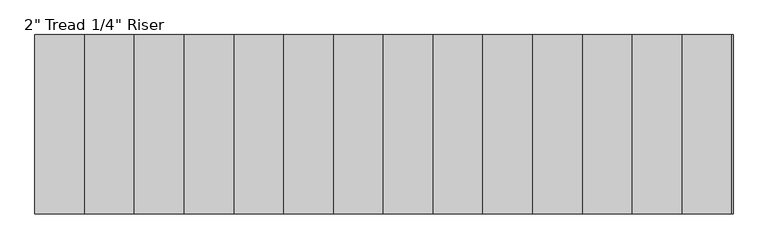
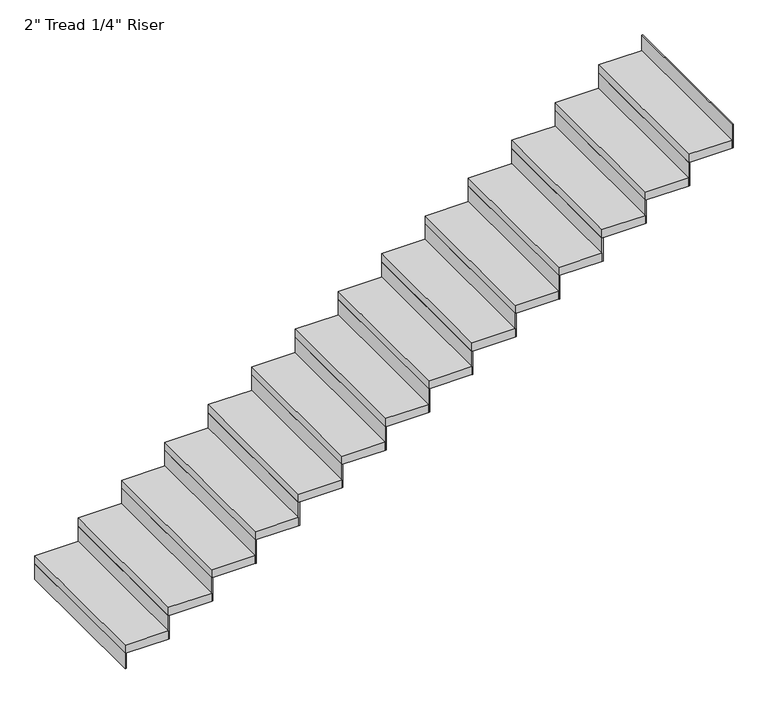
"""IFC4 building model written with IfcOpenShell, lengths in millimetres: stair flight geometry."""

from ifc_helpers import new_model, si_unit, frame, origin, origin_with_axes, place, context, project, spatial, polyline, outline, extrude, source, transform, mapped, element, save


def stair_flight_0a09475e(model_context):
    return source(origin(), model_context, "Body", "SweptSolid", [
        extrude(outline(polyline([(109152.4382982, -2429.8986114), (109146.0882982, -2429.8986114), (109146.0882982, -1515.4986114), (109152.4382982, -1515.4986114), (109152.4382982, -2429.8986114)])), origin_with_axes(), (0.0, 0.0, 1.0), 94.3428571),
        extrude(outline(polyline([(109400.0882982, -1515.4986114), (109400.0882982, -2429.8986114), (109146.0882982, -2429.8986114), (109146.0882982, -1515.4986114), (109400.0882982, -1515.4986114)])), frame((0.0, 0.0, 94.3428571), z_axis=(0.0, 0.0, 1.0), x_axis=(1.0, 0.0, 0.0)), (0.0, 0.0, 1.0), 50.8),
        extrude(outline(polyline([(109406.4382982, -2429.8986114), (109400.0882982, -2429.8986114), (109400.0882982, -1515.4986114), (109406.4382982, -1515.4986114), (109406.4382982, -2429.8986114)])), frame((0.0, 0.0, 94.3428571), z_axis=(0.0, 0.0, 1.0), x_axis=(1.0, 0.0, 0.0)), (0.0, 0.0, 1.0), 145.1428571),
        extrude(outline(polyline([(109654.0882982, -1515.4986114), (109654.0882982, -2429.8986114), (109400.0882982, -2429.8986114), (109400.0882982, -1515.4986114), (109654.0882982, -1515.4986114)])), frame((0.0, 0.0, 239.4857143), z_axis=(0.0, 0.0, 1.0), x_axis=(1.0, 0.0, 0.0)), (0.0, 0.0, 1.0), 50.8),
        extrude(outline(polyline([(109660.4382982, -2429.8986114), (109654.0882982, -2429.8986114), (109654.0882982, -1515.4986114), (109660.4382982, -1515.4986114), (109660.4382982, -2429.8986114)])), frame((0.0, 0.0, 239.4857143), z_axis=(0.0, 0.0, 1.0), x_axis=(1.0, 0.0, 0.0)), (0.0, 0.0, 1.0), 145.1428571),
        extrude(outline(polyline([(109908.0882982, -1515.4986114), (109908.0882982, -2429.8986114), (109654.0882982, -2429.8986114), (109654.0882982, -1515.4986114), (109908.0882982, -1515.4986114)])), frame((0.0, 0.0, 384.6285714), z_axis=(0.0, 0.0, 1.0), x_axis=(1.0, 0.0, 0.0)), (0.0, 0.0, 1.0), 50.8),
        extrude(outline(polyline([(109914.4382982, -2429.8986114), (109908.0882982, -2429.8986114), (109908.0882982, -1515.4986114), (109914.4382982, -1515.4986114), (109914.4382982, -2429.8986114)])), frame((0.0, 0.0, 384.6285714), z_axis=(0.0, 0.0, 1.0), x_axis=(1.0, 0.0, 0.0)), (0.0, 0.0, 1.0), 145.1428571),
        extrude(outline(polyline([(110162.0882982, -1515.4986114), (110162.0882982, -2429.8986114), (109908.0882982, -2429.8986114), (109908.0882982, -1515.4986114), (110162.0882982, -1515.4986114)])), frame((0.0, 0.0, 529.7714286), z_axis=(0.0, 0.0, 1.0), x_axis=(1.0, 0.0, 0.0)), (0.0, 0.0, 1.0), 50.8),
        extrude(outline(polyline([(110168.4382982, -2429.8986114), (110162.0882982, -2429.8986114), (110162.0882982, -1515.4986114), (110168.4382982, -1515.4986114), (110168.4382982, -2429.8986114)])), frame((0.0, 0.0, 529.7714286), z_axis=(0.0, 0.0, 1.0), x_axis=(1.0, 0.0, 0.0)), (0.0, 0.0, 1.0), 145.1428571),
        extrude(outline(polyline([(110416.0882982, -1515.4986114), (110416.0882982, -2429.8986114), (110162.0882982, -2429.8986114), (110162.0882982, -1515.4986114), (110416.0882982, -1515.4986114)])), frame((0.0, 0.0, 674.9142857), z_axis=(0.0, 0.0, 1.0), x_axis=(1.0, 0.0, 0.0)), (0.0, 0.0, 1.0), 50.8),
        extrude(outline(polyline([(110422.4382982, -2429.8986114), (110416.0882982, -2429.8986114), (110416.0882982, -1515.4986114), (110422.4382982, -1515.4986114), (110422.4382982, -2429.8986114)])), frame((0.0, 0.0, 674.9142857), z_axis=(0.0, 0.0, 1.0), x_axis=(1.0, 0.0, 0.0)), (0.0, 0.0, 1.0), 145.1428571),
        extrude(outline(polyline([(110670.0882982, -1515.4986114), (110670.0882982, -2429.8986114), (110416.0882982, -2429.8986114), (110416.0882982, -1515.4986114), (110670.0882982, -1515.4986114)])), frame((0.0, 0.0, 820.0571429), z_axis=(0.0, 0.0, 1.0), x_axis=(1.0, 0.0, 0.0)), (0.0, 0.0, 1.0), 50.8),
        extrude(outline(polyline([(110676.4382982, -2429.8986114), (110670.0882982, -2429.8986114), (110670.0882982, -1515.4986114), (110676.4382982, -1515.4986114), (110676.4382982, -2429.8986114)])), frame((0.0, 0.0, 820.0571429), z_axis=(0.0, 0.0, 1.0), x_axis=(1.0, 0.0, 0.0)), (0.0, 0.0, 1.0), 145.1428571),
        extrude(outline(polyline([(110924.0882982, -1515.4986114), (110924.0882982, -2429.8986114), (110670.0882982, -2429.8986114), (110670.0882982, -1515.4986114), (110924.0882982, -1515.4986114)])), frame((0.0, 0.0, 965.2), z_axis=(0.0, 0.0, 1.0), x_axis=(1.0, 0.0, 0.0)), (0.0, 0.0, 1.0), 50.8),
        extrude(outline(polyline([(110930.4382982, -2429.8986114), (110924.0882982, -2429.8986114), (110924.0882982, -1515.4986114), (110930.4382982, -1515.4986114), (110930.4382982, -2429.8986114)])), frame((0.0, 0.0, 965.2), z_axis=(0.0, 0.0, 1.0), x_axis=(1.0, 0.0, 0.0)), (0.0, 0.0, 1.0), 145.1428571),
        extrude(outline(polyline([(111178.0882982, -1515.4986114), (111178.0882982, -2429.8986114), (110924.0882982, -2429.8986114), (110924.0882982, -1515.4986114), (111178.0882982, -1515.4986114)])), frame((0.0, 0.0, 1110.3428571), z_axis=(0.0, 0.0, 1.0), x_axis=(1.0, 0.0, 0.0)), (0.0, 0.0, 1.0), 50.8),
        extrude(outline(polyline([(111184.4382982, -2429.8986114), (111178.0882982, -2429.8986114), (111178.0882982, -1515.4986114), (111184.4382982, -1515.4986114), (111184.4382982, -2429.8986114)])), frame((0.0, 0.0, 1110.3428571), z_axis=(0.0, 0.0, 1.0), x_axis=(1.0, 0.0, 0.0)), (0.0, 0.0, 1.0), 145.1428571),
        extrude(outline(polyline([(111432.0882982, -1515.4986114), (111432.0882982, -2429.8986114), (111178.0882982, -2429.8986114), (111178.0882982, -1515.4986114), (111432.0882982, -1515.4986114)])), frame((0.0, 0.0, 1255.4857143), z_axis=(0.0, 0.0, 1.0), x_axis=(1.0, 0.0, 0.0)), (0.0, 0.0, 1.0), 50.8),
        extrude(outline(polyline([(111438.4382982, -2429.8986114), (111432.0882982, -2429.8986114), (111432.0882982, -1515.4986114), (111438.4382982, -1515.4986114), (111438.4382982, -2429.8986114)])), frame((0.0, 0.0, 1255.4857143), z_axis=(0.0, 0.0, 1.0), x_axis=(1.0, 0.0, 0.0)), (0.0, 0.0, 1.0), 145.1428571),
        extrude(outline(polyline([(111686.0882982, -1515.4986114), (111686.0882982, -2429.8986114), (111432.0882982, -2429.8986114), (111432.0882982, -1515.4986114), (111686.0882982, -1515.4986114)])), frame((0.0, 0.0, 1400.6285714), z_axis=(0.0, 0.0, 1.0), x_axis=(1.0, 0.0, 0.0)), (0.0, 0.0, 1.0), 50.8),
        extrude(outline(polyline([(111692.4382982, -2429.8986114), (111686.0882982, -2429.8986114), (111686.0882982, -1515.4986114), (111692.4382982, -1515.4986114), (111692.4382982, -2429.8986114)])), frame((0.0, 0.0, 1400.6285714), z_axis=(0.0, 0.0, 1.0), x_axis=(1.0, 0.0, 0.0)), (0.0, 0.0, 1.0), 145.1428571),
        extrude(outline(polyline([(111940.0882982, -1515.4986114), (111940.0882982, -2429.8986114), (111686.0882982, -2429.8986114), (111686.0882982, -1515.4986114), (111940.0882982, -1515.4986114)])), frame((0.0, 0.0, 1545.7714286), z_axis=(0.0, 0.0, 1.0), x_axis=(1.0, 0.0, 0.0)), (0.0, 0.0, 1.0), 50.8),
        extrude(outline(polyline([(111946.4382982, -2429.8986114), (111940.0882982, -2429.8986114), (111940.0882982, -1515.4986114), (111946.4382982, -1515.4986114), (111946.4382982, -2429.8986114)])), frame((0.0, 0.0, 1545.7714286), z_axis=(0.0, 0.0, 1.0), x_axis=(1.0, 0.0, 0.0)), (0.0, 0.0, 1.0), 145.1428571),
        extrude(outline(polyline([(112194.0882982, -1515.4986114), (112194.0882982, -2429.8986114), (111940.0882982, -2429.8986114), (111940.0882982, -1515.4986114), (112194.0882982, -1515.4986114)])), frame((0.0, 0.0, 1690.9142857), z_axis=(0.0, 0.0, 1.0), x_axis=(1.0, 0.0, 0.0)), (0.0, 0.0, 1.0), 50.8),
        extrude(outline(polyline([(112200.4382982, -2429.8986114), (112194.0882982, -2429.8986114), (112194.0882982, -1515.4986114), (112200.4382982, -1515.4986114), (112200.4382982, -2429.8986114)])), frame((0.0, 0.0, 1690.9142857), z_axis=(0.0, 0.0, 1.0), x_axis=(1.0, 0.0, 0.0)), (0.0, 0.0, 1.0), 145.1428571),
        extrude(outline(polyline([(112448.0882982, -1515.4986114), (112448.0882982, -2429.8986114), (112194.0882982, -2429.8986114), (112194.0882982, -1515.4986114), (112448.0882982, -1515.4986114)])), frame((0.0, 0.0, 1836.0571429), z_axis=(0.0, 0.0, 1.0), x_axis=(1.0, 0.0, 0.0)), (0.0, 0.0, 1.0), 50.8),
        extrude(outline(polyline([(112454.4382982, -2429.8986114), (112448.0882982, -2429.8986114), (112448.0882982, -1515.4986114), (112454.4382982, -1515.4986114), (112454.4382982, -2429.8986114)])), frame((0.0, 0.0, 1836.0571429), z_axis=(0.0, 0.0, 1.0), x_axis=(1.0, 0.0, 0.0)), (0.0, 0.0, 1.0), 145.1428571),
        extrude(outline(polyline([(112708.4382982, -2429.8986114), (112702.0882982, -2429.8986114), (112702.0882982, -1515.4986114), (112708.4382982, -1515.4986114), (112708.4382982, -2429.8986114)])), frame((0.0, 0.0, 1981.2), z_axis=(0.0, 0.0, 1.0), x_axis=(1.0, 0.0, 0.0)), (0.0, 0.0, 1.0), 145.1428571),
        extrude(outline(polyline([(112702.0882982, -1515.4986114), (112702.0882982, -2429.8986114), (112448.0882982, -2429.8986114), (112448.0882982, -1515.4986114), (112702.0882982, -1515.4986114)])), frame((0.0, 0.0, 1981.2), z_axis=(0.0, 0.0, 1.0), x_axis=(1.0, 0.0, 0.0)), (0.0, 0.0, 1.0), 50.8),
    ])


if __name__ == "__main__":
    model = new_model("IFC4")
    model_context = context("Model", 3, world=origin())
    ifc_project = project(units=[si_unit("LENGTHUNIT", "METRE", prefix="MILLI")], contexts=[model_context])
    site = spatial("IfcSite", under=ifc_project)
    building = spatial("IfcBuilding", under=site)
    placement = place(None, origin())
    stair_flight_shape = stair_flight_0a09475e(model_context)
    element("IfcStairFlight", 1, ObjectType="2\" Tread 1/4\" Riser", at=placement, inside=building, context=model_context, shape_type="MappedRepresentation", body=[
        mapped(stair_flight_shape, transform((0.0, 0.0, 0.0), x_axis=(1.0, 0.0, 0.0), y_axis=(0.0, 1.0, 0.0), z_axis=(0.0, 0.0, 1.0))),
    ])
    save(model, "model.ifc")
